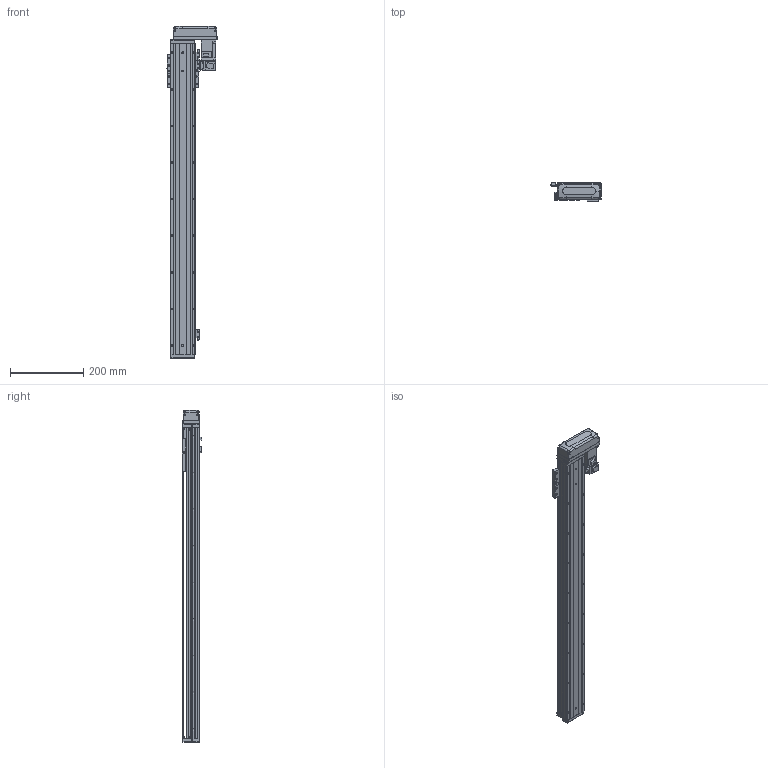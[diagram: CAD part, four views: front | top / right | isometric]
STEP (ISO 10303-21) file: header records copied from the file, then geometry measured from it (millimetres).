
FILE_DESCRIPTION (( 'STEP AP203' ), '1' );
FILE_NAME ('KTHAL60-700-BL-M10-C4L.step', '2022-03-19T08:39:03', ( '微软用户' ), ( '微软中国' ), 'SwSTEP 2.0', 'SolidWorks 2020', '' );
FILE_SCHEMA (( 'CONFIG_CONTROL_DESIGN' ));
Length unit declared in the file: millimetre
Products named in the file (18): GB¨uT 70.2-M3¡Á5_M3¡Á6; CTHA60-015-2_CTHA60-015-2; GBT 70.3-M3℅6; CTHA60-033; EE_SX911P_R; GBT 70.1-M3×15; KTHA60-001_850; CTHA60-017; KTHAL60-700-BL-M10-C4L; KTHLA60-002; GBT 70.1-M3℅6; CTHA60-021; KTHA60-004; CTHA60-016; GBT 70.1-M4×16; KTHA60-005; HG-KR13（三菱）; GBT77-2000M3-3
Assembly tree (51 placements, depth 2):
  KTHAL60-700-BL-M10-C4L
    KTHA60-001_850
    KTHLA60-002
    KTHA60-004
    KTHA60-005
    GB¨uT 70.2-M3¡Á5_M3¡Á6  x5
    GBT 70.3-M3℅6  x4
    EE_SX911P_R  x3
    CTHA60-017  x3
    CTHA60-021  x2
    GBT 70.1-M4×16  x10
    GBT77-2000M3-3  x6
    GBT 70.1-M3℅6  x6
    CTHA60-016
    HG-KR13（三菱）
    CTHA60-015-2_CTHA60-015-2
    CTHA60-033
    GBT 70.1-M3×15  x4
Bounding box: 137 x 53.3 x 907 mm (x, y, z)
Volume: 1862319.8 mm3; surface area: 460348.7 mm2
Topology: 54 solids, 54 shells, 2335 faces, 5555 edges, 3413 vertices
Faces by surface type: plane 1336, cylinder 571, cone 290, torus 98, bspline 26, sphere 14
Entity records: 41285 total; most frequent: CARTESIAN_POINT 7784, DIRECTION 6463, ORIENTED_EDGE 6254, EDGE_CURVE 3127, AXIS2_PLACEMENT_3D 2159, LINE 2145, VECTOR 2145, VERTEX_POINT 1962
